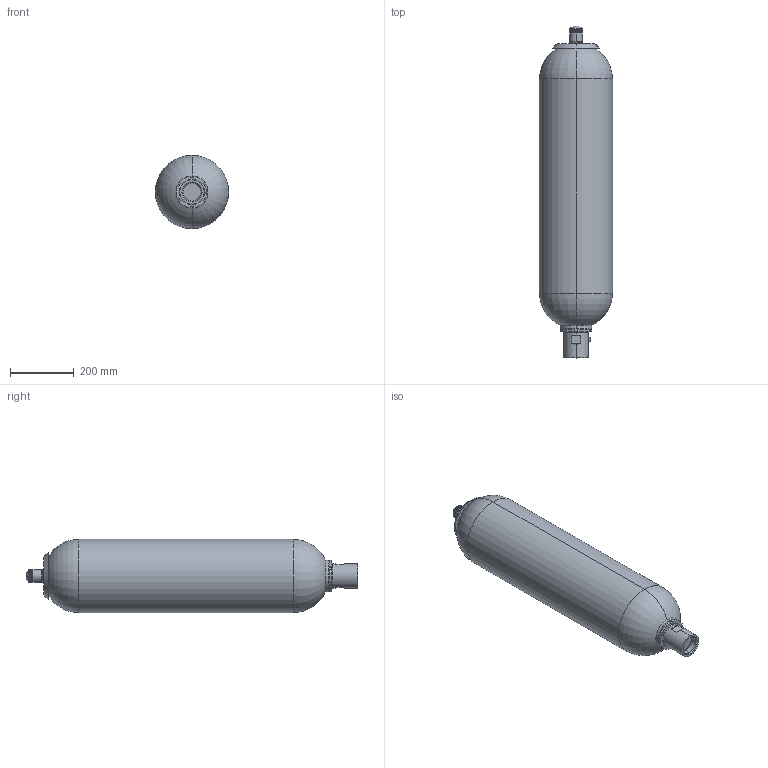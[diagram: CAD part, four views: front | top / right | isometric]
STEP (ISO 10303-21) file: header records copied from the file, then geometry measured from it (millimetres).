
FILE_DESCRIPTION (( 'STEP AP214' ), '1' );
FILE_NAME ('HYDAC-SB330-24A1_112-330A.STEP', '2020-02-17T04:15:38', ( '' ), ( '' ), 'SwSTEP 2.0', 'SolidWorks 2019', '' );
FILE_SCHEMA (( 'AUTOMOTIVE_DESIGN' ));
Length unit declared in the file: millimetre
Products named in the file (1): HYDAC-SB330-24A1_112-330A
Bounding box: 229 x 1038 x 229 mm (x, y, z)
Volume: 34241690.1 mm3; surface area: 720769.5 mm2
Topology: 1 solids, 3 shells, 623 faces, 1592 edges, 989 vertices
Faces by surface type: plane 447, bspline 75, cone 40, cylinder 36, torus 23, sphere 2
Entity records: 23844 total; most frequent: CARTESIAN_POINT 6921, ORIENTED_EDGE 3180, DIRECTION 2794, EDGE_CURVE 1590, VERTEX_POINT 989, AXIS2_PLACEMENT_3D 933, VECTOR 928, LINE 928
